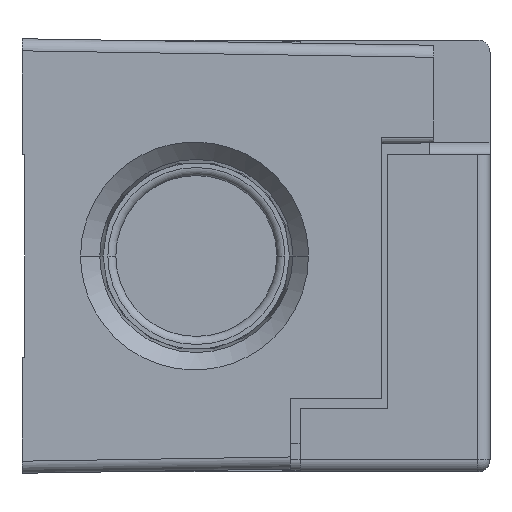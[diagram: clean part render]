
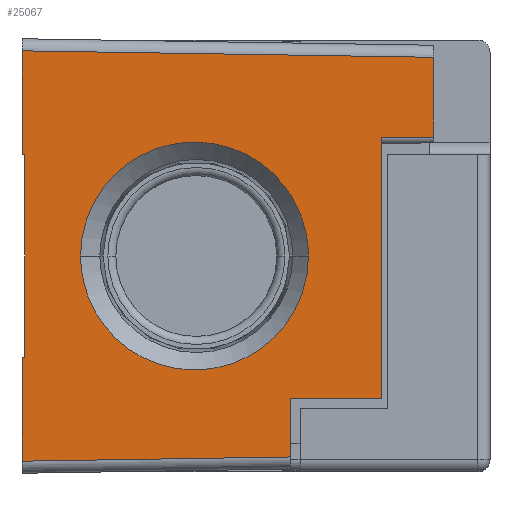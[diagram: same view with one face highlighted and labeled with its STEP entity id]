
A CAD part, front view. The second image highlights one B-rep face of the part: STEP entity #25067.
In plain terms, the highlighted planar face has unit normal (0.016, -1, 0).
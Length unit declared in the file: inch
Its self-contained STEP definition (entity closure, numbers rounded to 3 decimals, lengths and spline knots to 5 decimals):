
#20652=CARTESIAN_POINT('',(0.161,-3.18829,-0.7493));
#20662=DIRECTION('',(0.,0.,1.));
#20663=VECTOR('',#20662,0.2193);
#20664=CARTESIAN_POINT('',(0.161,-3.18829,-0.7493));
#20665=LINE('',#20664,#20663);
#20982=DIRECTION('',(0.,0.,1.));
#20983=VECTOR('',#20982,0.973);
#20984=CARTESIAN_POINT('',(0.501,-3.18295,-0.53));
#20985=LINE('',#20984,#20983);
#20990=DIRECTION('',(1.,0.016,0.));
#20991=VECTOR('',#20990,0.34004);
#20992=CARTESIAN_POINT('',(0.161,-3.18829,-0.53));
#20993=LINE('',#20992,#20991);
#20994=DIRECTION('',(-1.,-0.016,0.016));
#20995=VECTOR('',#20994,1.53538);
#20996=CARTESIAN_POINT('',(0.696,-3.17989,0.74089));
#20997=LINE('',#20996,#20995);
#20998=DIRECTION('',(1.,0.016,0.016));
#20999=VECTOR('',#20998,1.00025);
#21000=CARTESIAN_POINT('',(-0.839,-3.204,-0.76501));
#21001=LINE('',#21000,#20999);
#21002=DIRECTION('',(1.,0.016,0.));
#21003=VECTOR('',#21002,0.01);
#21004=CARTESIAN_POINT('',(-0.839,-3.204,-0.378));
#21005=LINE('',#21004,#21003);
#21006=DIRECTION('',(0.,0.,1.));
#21007=VECTOR('',#21006,0.756);
#21008=CARTESIAN_POINT('',(-0.829,-3.20384,-0.378));
#21009=LINE('',#21008,#21007);
#21010=DIRECTION('',(1.,0.016,0.));
#21011=VECTOR('',#21010,0.01);
#21012=CARTESIAN_POINT('',(-0.839,-3.204,0.378));
#21013=LINE('',#21012,#21011);
#21014=CARTESIAN_POINT('',(0.22922,-3.18722,0.));
#21015=CARTESIAN_POINT('',(0.22922,-3.18722,
-0.02503));
#21016=CARTESIAN_POINT('',(0.22477,-3.18729,
-0.07698));
#21017=CARTESIAN_POINT('',(0.20223,-3.18764,
-0.15686));
#21018=CARTESIAN_POINT('',(0.16265,-3.18826,
-0.23386));
#21019=CARTESIAN_POINT('',(0.10694,-3.18914,
-0.30258));
#21020=CARTESIAN_POINT('',(0.03821,-3.19022,
-0.35828));
#21021=CARTESIAN_POINT('',(-0.02595,-3.19123,
-0.39125));
#21022=CARTESIAN_POINT('',(-0.07874,-3.19206,
-0.40913));
#21023=CARTESIAN_POINT('',(-0.11844,-3.19268,
-0.41841));
#21024=CARTESIAN_POINT('',(-0.15111,-3.19319,
-0.42285));
#21025=CARTESIAN_POINT('',(-0.1768,-3.1936,
-0.42456));
#21026=CARTESIAN_POINT('',(-0.19567,-3.19389,
-0.42498));
#21027=CARTESIAN_POINT('',(-0.21455,-3.19419,
-0.42456));
#21028=CARTESIAN_POINT('',(-0.24024,-3.19459,
-0.42285));
#21029=CARTESIAN_POINT('',(-0.27291,-3.19511,
-0.41841));
#21030=CARTESIAN_POINT('',(-0.31261,-3.19573,
-0.40913));
#21031=CARTESIAN_POINT('',(-0.36539,-3.19656,
-0.39125));
#21032=CARTESIAN_POINT('',(-0.42956,-3.19757,
-0.35828));
#21033=CARTESIAN_POINT('',(-0.49829,-3.19865,
-0.30258));
#21034=CARTESIAN_POINT('',(-0.554,-3.19952,
-0.23386));
#21035=CARTESIAN_POINT('',(-0.59357,-3.20014,
-0.15686));
#21036=CARTESIAN_POINT('',(-0.61612,-3.2005,
-0.07698));
#21037=CARTESIAN_POINT('',(-0.62057,-3.20057,
-0.02503));
#21038=CARTESIAN_POINT('',(-0.62057,-3.20057,0.));
#21040=CARTESIAN_POINT('',(-0.62057,-3.20057,0.));
#21041=CARTESIAN_POINT('',(-0.62057,-3.20057,
0.02503));
#21042=CARTESIAN_POINT('',(-0.61612,-3.2005,
0.07698));
#21043=CARTESIAN_POINT('',(-0.59357,-3.20014,
0.15686));
#21044=CARTESIAN_POINT('',(-0.554,-3.19952,
0.23386));
#21045=CARTESIAN_POINT('',(-0.49829,-3.19865,
0.30258));
#21046=CARTESIAN_POINT('',(-0.42956,-3.19757,
0.35828));
#21047=CARTESIAN_POINT('',(-0.36539,-3.19656,
0.39125));
#21048=CARTESIAN_POINT('',(-0.31261,-3.19573,
0.40913));
#21049=CARTESIAN_POINT('',(-0.27291,-3.19511,
0.41841));
#21050=CARTESIAN_POINT('',(-0.24024,-3.19459,
0.42285));
#21051=CARTESIAN_POINT('',(-0.21455,-3.19419,
0.42456));
#21052=CARTESIAN_POINT('',(-0.19567,-3.19389,
0.42498));
#21053=CARTESIAN_POINT('',(-0.1768,-3.1936,
0.42456));
#21054=CARTESIAN_POINT('',(-0.15111,-3.19319,
0.42285));
#21055=CARTESIAN_POINT('',(-0.11844,-3.19268,
0.41841));
#21056=CARTESIAN_POINT('',(-0.07874,-3.19206,
0.40913));
#21057=CARTESIAN_POINT('',(-0.02595,-3.19123,
0.39125));
#21058=CARTESIAN_POINT('',(0.03821,-3.19022,
0.35828));
#21059=CARTESIAN_POINT('',(0.10694,-3.18914,
0.30258));
#21060=CARTESIAN_POINT('',(0.16265,-3.18826,
0.23386));
#21061=CARTESIAN_POINT('',(0.20223,-3.18764,
0.15686));
#21062=CARTESIAN_POINT('',(0.22477,-3.18729,
0.07698));
#21063=CARTESIAN_POINT('',(0.22922,-3.18722,
0.02503));
#21064=CARTESIAN_POINT('',(0.22922,-3.18722,0.));
#21066=CARTESIAN_POINT('',(-0.839,-3.204,0.76501));
#21076=DIRECTION('',(0.,0.,1.));
#21077=VECTOR('',#21076,0.38701);
#21078=CARTESIAN_POINT('',(-0.839,-3.204,0.378));
#21079=LINE('',#21078,#21077);
#21580=CARTESIAN_POINT('',(0.696,-3.17989,0.74089));
#21609=DIRECTION('',(0.,0.,-1.));
#21610=VECTOR('',#21609,0.29789);
#21611=CARTESIAN_POINT('',(0.696,-3.17989,0.74089));
#21612=LINE('',#21611,#21610);
#21672=DIRECTION('',(1.,0.016,0.));
#21673=VECTOR('',#21672,0.19502);
#21674=CARTESIAN_POINT('',(0.501,-3.18295,0.443));
#21675=LINE('',#21674,#21673);
#21808=CARTESIAN_POINT('',(-0.839,-3.204,-0.76501));
#21827=DIRECTION('',(0.,0.,1.));
#21828=VECTOR('',#21827,0.38701);
#21829=CARTESIAN_POINT('',(-0.839,-3.204,-0.76501));
#21830=LINE('',#21829,#21828);
#23008=CARTESIAN_POINT('',(0.22922,-3.18722,0.));
#23009=VERTEX_POINT('',#23008);
#23010=CARTESIAN_POINT('',(-0.62057,-3.20057,0.));
#23011=VERTEX_POINT('',#23010);
#23013=CARTESIAN_POINT('',(0.501,-3.18295,0.443));
#23015=VERTEX_POINT('',#23013);
#23022=CARTESIAN_POINT('',(0.696,-3.17989,0.443));
#23023=VERTEX_POINT('',#23022);
#23024=CARTESIAN_POINT('',(0.501,-3.18295,-0.53));
#23025=VERTEX_POINT('',#23024);
#23032=CARTESIAN_POINT('',(0.161,-3.18829,-0.53));
#23033=VERTEX_POINT('',#23032);
#23036=VERTEX_POINT('',#21066);
#23040=VERTEX_POINT('',#21580);
#23041=VERTEX_POINT('',#20652);
#23045=VERTEX_POINT('',#21808);
#23098=CARTESIAN_POINT('',(-0.839,-3.204,-0.378));
#23099=VERTEX_POINT('',#23098);
#23100=CARTESIAN_POINT('',(-0.839,-3.204,0.378));
#23102=VERTEX_POINT('',#23100);
#23120=CARTESIAN_POINT('',(-0.829,-3.20384,-0.378));
#23121=CARTESIAN_POINT('',(-0.829,-3.20384,0.378));
#23122=VERTEX_POINT('',#23120);
#23123=VERTEX_POINT('',#23121);
#25033=CARTESIAN_POINT('',(-0.839,-3.204,-1.85443));
#25034=DIRECTION('',(0.016,-1.,0.));
#25035=DIRECTION('',(0.,0.,1.));
#25036=AXIS2_PLACEMENT_3D('',#25033,#25034,#25035);
#25037=PLANE('',#25036);
#25039=ORIENTED_EDGE('',*,*,#25038,.F.);
#25041=ORIENTED_EDGE('',*,*,#25040,.T.);
#25043=ORIENTED_EDGE('',*,*,#25042,.F.);
#25044=ORIENTED_EDGE('',*,*,#25012,.F.);
#25045=ORIENTED_EDGE('',*,*,#25027,.F.);
#25046=ORIENTED_EDGE('',*,*,#24548,.F.);
#25048=ORIENTED_EDGE('',*,*,#25047,.F.);
#25050=ORIENTED_EDGE('',*,*,#25049,.T.);
#25052=ORIENTED_EDGE('',*,*,#25051,.T.);
#25054=ORIENTED_EDGE('',*,*,#25053,.T.);
#25056=ORIENTED_EDGE('',*,*,#25055,.F.);
#25058=ORIENTED_EDGE('',*,*,#25057,.T.);
#25059=EDGE_LOOP('',(#25039,#25041,#25043,#25044,#25045,#25046,#25048,#25050,
#25052,#25054,#25056,#25058));
#25060=FACE_OUTER_BOUND('',#25059,.F.);
#25062=ORIENTED_EDGE('',*,*,#25061,.F.);
#25064=ORIENTED_EDGE('',*,*,#25063,.F.);
#25065=EDGE_LOOP('',(#25062,#25064));
#25066=FACE_BOUND('',#25065,.F.);
#25067=ADVANCED_FACE('',(#25060,#25066),#25037,.T.);
#21039=B_SPLINE_CURVE_WITH_KNOTS('',3,(#21014,#21015,#21016,#21017,#21018,
#21019,#21020,#21021,#21022,#21023,#21024,#21025,#21026,#21027,#21028,#21029,
#21030,#21031,#21032,#21033,#21034,#21035,#21036,#21037,#21038),.UNSPECIFIED.,
.F.,.F.,(4,1,1,1,1,1,1,1,1,1,1,1,1,1,1,1,1,1,1,1,1,1,4),(0.,0.0625,0.125,
0.1875,0.25,0.3125,0.375,0.40625,0.4375,0.46875,0.48438,0.5,
0.51563,0.53125,0.5625,0.59375,0.625,0.6875,0.75,0.8125,
0.875,0.9375,1.),.UNSPECIFIED.);
#21065=B_SPLINE_CURVE_WITH_KNOTS('',3,(#21040,#21041,#21042,#21043,#21044,
#21045,#21046,#21047,#21048,#21049,#21050,#21051,#21052,#21053,#21054,#21055,
#21056,#21057,#21058,#21059,#21060,#21061,#21062,#21063,#21064),.UNSPECIFIED.,
.F.,.F.,(4,1,1,1,1,1,1,1,1,1,1,1,1,1,1,1,1,1,1,1,1,1,4),(0.,0.0625,0.125,
0.1875,0.25,0.3125,0.375,0.40625,0.4375,0.46875,0.48438,0.5,
0.51563,0.53125,0.5625,0.59375,0.625,0.6875,0.75,0.8125,
0.875,0.9375,1.),.UNSPECIFIED.);
#24548=EDGE_CURVE('',#23041,#23033,#20665,.T.);
#25012=EDGE_CURVE('',#23025,#23015,#20985,.T.);
#25027=EDGE_CURVE('',#23033,#23025,#20993,.T.);
#25038=EDGE_CURVE('',#23040,#23036,#20997,.T.);
#25040=EDGE_CURVE('',#23040,#23023,#21612,.T.);
#25042=EDGE_CURVE('',#23015,#23023,#21675,.T.);
#25047=EDGE_CURVE('',#23045,#23041,#21001,.T.);
#25049=EDGE_CURVE('',#23045,#23099,#21830,.T.);
#25051=EDGE_CURVE('',#23099,#23122,#21005,.T.);
#25053=EDGE_CURVE('',#23122,#23123,#21009,.T.);
#25055=EDGE_CURVE('',#23102,#23123,#21013,.T.);
#25057=EDGE_CURVE('',#23102,#23036,#21079,.T.);
#25061=EDGE_CURVE('',#23009,#23011,#21039,.T.);
#25063=EDGE_CURVE('',#23011,#23009,#21065,.T.);
